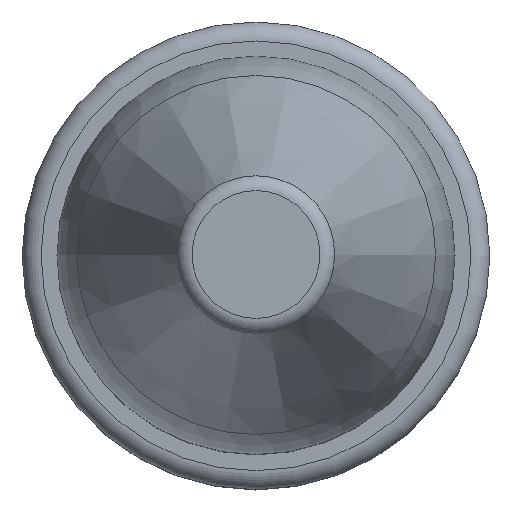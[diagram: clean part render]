
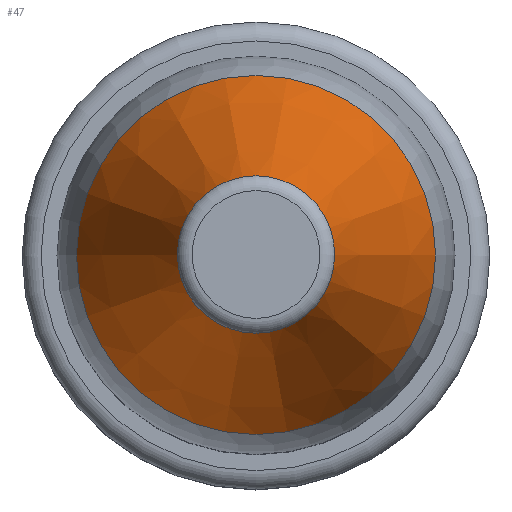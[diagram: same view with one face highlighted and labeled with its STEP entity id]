
A CAD part, top view. The second image highlights one B-rep face of the part: STEP entity #47.
In plain terms, the highlighted conical face has half-angle 20 degrees and reference radius 7.215 mm.
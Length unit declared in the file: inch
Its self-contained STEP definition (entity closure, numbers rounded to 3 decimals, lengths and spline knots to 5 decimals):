
#2 = AXIS2_PLACEMENT_3D ( 'NONE', #14, #135, #177 ) ;
#5 = VERTEX_POINT ( 'NONE', #111 ) ;
#14 = CARTESIAN_POINT ( 'NONE',  ( 0., 0., 1.48845 ) ) ;
#21 = CARTESIAN_POINT ( 'NONE',  ( 0.12453, 0., 1.48845 ) ) ;
#32 = CARTESIAN_POINT ( 'NONE',  ( 0., 0., 1.05011 ) ) ;
#42 = EDGE_LOOP ( 'NONE', ( #192 ) ) ;
#47 = ADVANCED_FACE ( 'NONE', ( #153, #158 ), #220, .T. ) ;
#59 = CIRCLE ( 'NONE', #140, 0.28407 ) ;
#61 = EDGE_LOOP ( 'NONE', ( #150 ) ) ;
#65 = DIRECTION ( 'NONE',  ( -1., 0., 0. ) ) ;
#81 = EDGE_CURVE ( 'NONE', #187, #187, #156, .T. ) ;
#111 = CARTESIAN_POINT ( 'NONE',  ( 0.28407, 0., 1.05011 ) ) ;
#112 = DIRECTION ( 'NONE',  ( 0., 0., 1. ) ) ;
#120 = DIRECTION ( 'NONE',  ( 0., 0., -1. ) ) ;
#130 = DIRECTION ( 'NONE',  ( 1., 0., 0. ) ) ;
#135 = DIRECTION ( 'NONE',  ( 0., 0., 1. ) ) ;
#140 = AXIS2_PLACEMENT_3D ( 'NONE', #228, #112, #130 ) ;
#144 = EDGE_CURVE ( 'NONE', #5, #5, #59, .T. ) ;
#150 = ORIENTED_EDGE ( 'NONE', *, *, #144, .T. ) ;
#153 = FACE_BOUND ( 'NONE', #42, .T. ) ;
#156 = CIRCLE ( 'NONE', #2, 0.12453 ) ;
#158 = FACE_OUTER_BOUND ( 'NONE', #61, .T. ) ;
#177 = DIRECTION ( 'NONE',  ( 1., 0., 0. ) ) ;
#182 = AXIS2_PLACEMENT_3D ( 'NONE', #32, #120, #65 ) ;
#187 = VERTEX_POINT ( 'NONE', #21 ) ;
#192 = ORIENTED_EDGE ( 'NONE', *, *, #81, .F. ) ;
#220 = CONICAL_SURFACE ( 'NONE', #182, 0.28407, 0.349 ) ;
#228 = CARTESIAN_POINT ( 'NONE',  ( 0., 0., 1.05011 ) ) ;
